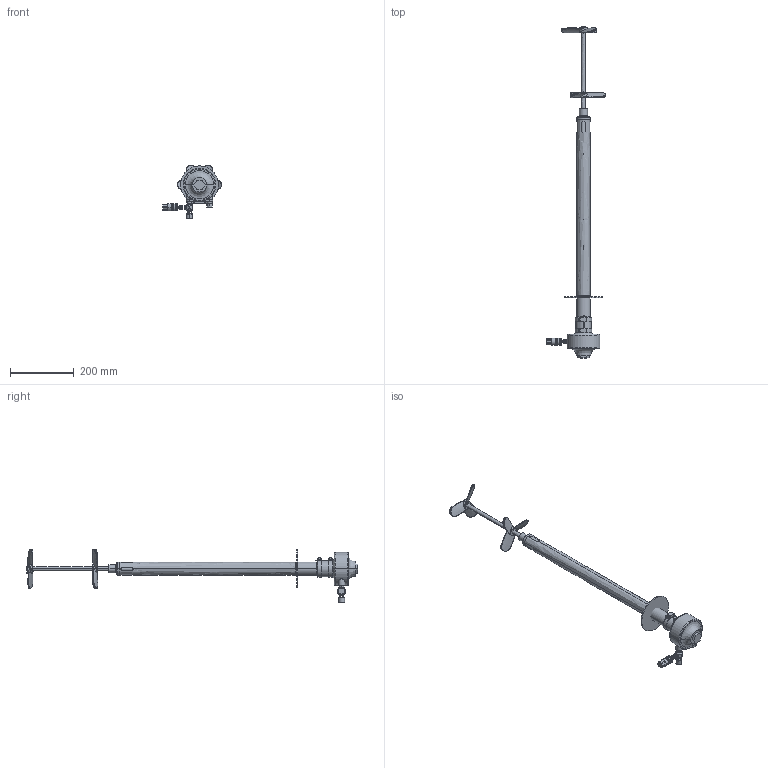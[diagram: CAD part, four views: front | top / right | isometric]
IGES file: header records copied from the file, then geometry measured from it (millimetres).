
Start section:  PTC IGES file: 206760-en-w.igs
Global section: file name: 206760-en-w.igs; native system: Creo Parametric by PTC Inc.; preprocessor: 2021072; author: qtmwp1; organization: Unknown; date: 20220214.105308; units: inch
Bounding box: 185.49 x 1042.73 x 169.17 mm (x, y, z)
Surface area: 314134 mm2 (no closed solid volume)
Topology: 0 solids, 0 shells, 281 faces, 1312 edges, 1312 vertices
Faces by surface type: revolution 159, bspline 122
